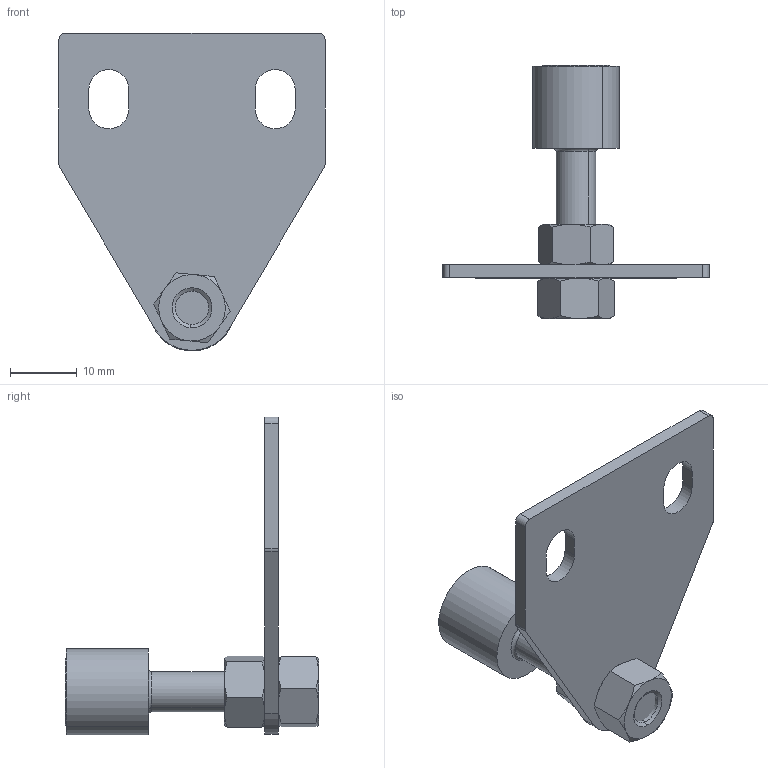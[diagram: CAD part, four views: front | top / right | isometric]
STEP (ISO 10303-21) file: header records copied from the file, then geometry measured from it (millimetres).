
FILE_DESCRIPTION (( 'STEP AP214' ), '1' );
FILE_NAME ('1.4035 Ovimagneetti C 6X30.STEP', '2025-09-15T07:02:44', ( '' ), ( '' ), 'SwSTEP 2.0', 'SolidWorks 2025', '' );
FILE_SCHEMA (( 'AUTOMOTIVE_DESIGN' ));
Length unit declared in the file: millimetre
Products named in the file (1): 1.4035 Ovimagneetti C 6X30
Bounding box: 40 x 38.1 x 47.79 mm (x, y, z)
Volume: 5810.8 mm3; surface area: 5179.5 mm2
Topology: 4 solids, 4 shells, 92 faces, 208 edges, 126 vertices
Faces by surface type: cone 32, plane 31, cylinder 27, torus 2
Entity records: 2768 total; most frequent: CARTESIAN_POINT 667, DIRECTION 432, ORIENTED_EDGE 416, EDGE_CURVE 208, AXIS2_PLACEMENT_3D 179, VERTEX_POINT 126, EDGE_LOOP 104, FACE_OUTER_BOUND 92
